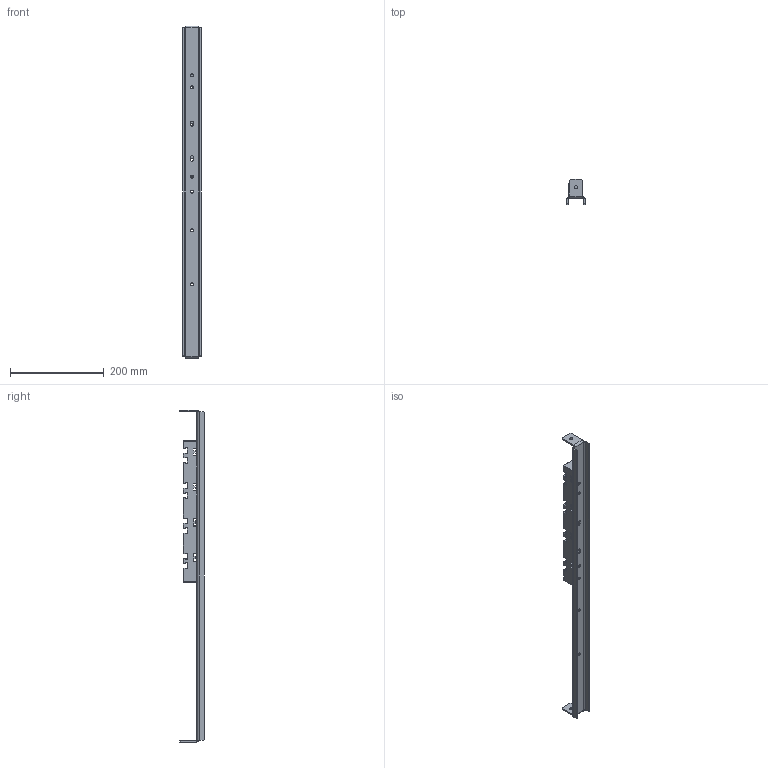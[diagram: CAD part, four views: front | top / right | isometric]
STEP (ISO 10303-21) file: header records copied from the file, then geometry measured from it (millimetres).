
FILE_DESCRIPTION((''),'2;1');
FILE_NAME('NSYBHS800L-3D_ASM','2023-11-16T12:20:50',('SESA6369'),('Schneider-Electric'),'CREO PARAMETRIC BY PTC INC, 2021284','CREO PARAMETRIC BY PTC INC, 2021284','');
FILE_SCHEMA(('AP242_MANAGED_MODEL_BASED_3D_ENGINEERING_MIM_LF { 1 0 10303 442 1 1 4 }'));
Length unit declared in the file: millimetre
Products named in the file (3): ENNA0847701; GHQ2007000_MIG33; NSYBHS800L-3D_ASM
Assembly tree (2 placements, depth 2):
  NSYBHS800L-3D_ASM
    ENNA0847701
    GHQ2007000_MIG33
Bounding box: 39 x 53 x 708 mm (x, y, z)
Volume: 324347.8 mm3; surface area: 141387.8 mm2
Topology: 2 solids, 2 shells, 332 faces, 777 edges, 458 vertices
Faces by surface type: cylinder 157, plane 131, sphere 36, torus 8
Entity records: 12121 total; most frequent: CARTESIAN_POINT 1803, DIRECTION 1685, ORIENTED_EDGE 1554, PRESENTATION_STYLE_ASSIGNMENT 779, STYLED_ITEM 779, CURVE_STYLE 777, EDGE_CURVE 777, AXIS2_PLACEMENT_3D 603
